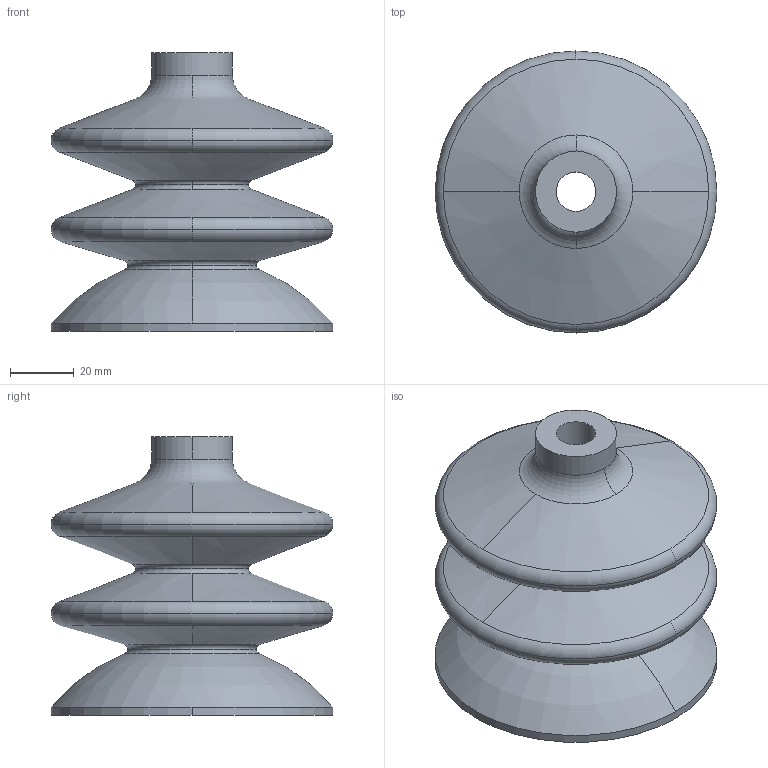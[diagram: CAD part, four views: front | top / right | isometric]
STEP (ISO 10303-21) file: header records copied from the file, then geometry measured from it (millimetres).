
FILE_DESCRIPTION(('STEP AP214'),'1');
FILE_NAME('10_01_06_00143.stp','2020-10-24T00:22:43',('TraceParts'),('TraceParts S.A.'),'Spatial InterOp 3D',' ',' ');
FILE_SCHEMA(('AUTOMOTIVE_DESIGN { 1 0 10303 214 1 1 1 1 }'));
Length unit declared in the file: millimetre
Products named in the file (1): 10_01_06_00143
Bounding box: 88.39 x 88.39 x 87.5 mm (x, y, z)
Volume: 143927.4 mm3; surface area: 56980 mm2
Topology: 1 solids, 1 shells, 71 faces, 180 edges, 112 vertices
Faces by surface type: torus 44, cone 16, cylinder 8, plane 3
Entity records: 4266 total; most frequent: DIRECTION 480, CARTESIAN_POINT 364, STYLED_ITEM 363, PRESENTATION_STYLE_ASSIGNMENT 363, COLOUR_RGB 363, ORIENTED_EDGE 360, AXIS2_PLACEMENT_3D 228, EDGE_CURVE 180
